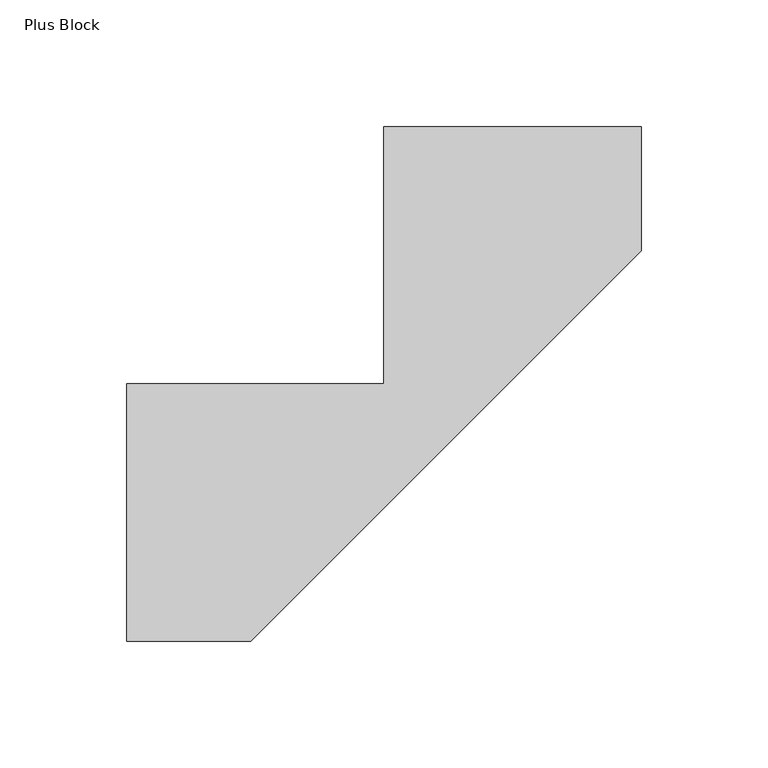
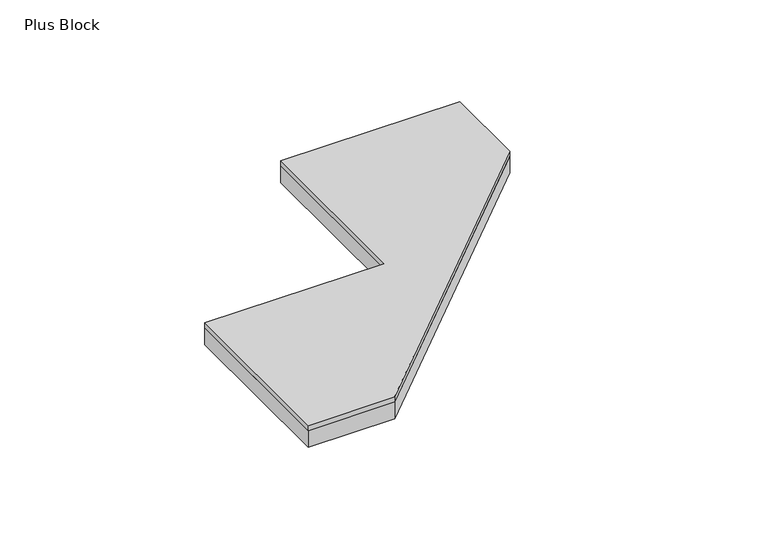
"""IFC4 building model written with IfcOpenShell, lengths in millimetres: proxy geometry, FilzFelt_Plus_Block : Plus Block."""

from ifc_helpers import new_model, si_unit, frame, origin, origin_with_axes, place, context, project, spatial, polyline, outline, extrude, source, transform, mapped, element, save


def plus_block_2c174317(model_context):
    return source(origin(), model_context, "Body", "SweptSolid", [
        extrude(outline(polyline([(-152.5, -50.8333333), (-152.5, 50.8333333), (-50.8333333, 50.8333333), (-50.8333333, 152.5), (50.8333333, 152.5), (50.8333333, 103.4469644), (-103.4469644, -50.8333333), (-152.5, -50.8333333)])), frame((0.0, 0.0, 10.0210937), z_axis=(0.0, 0.0, 1.0), x_axis=(1.0, 0.0, 0.0)), (0.0, 0.0, 1.0), 2.9765625),
        extrude(outline(polyline([(-152.5, -50.8333333), (-152.5, 50.8333333), (-50.8333333, 50.8333333), (-50.8333333, 152.5), (50.8333333, 152.5), (50.8333333, 103.4469644), (-103.4469644, -50.8333333), (-152.5, -50.8333333)])), origin_with_axes(), (0.0, 0.0, 1.0), 10.0210938),
    ])


if __name__ == "__main__":
    model = new_model("IFC4")
    model_context = context("Model", 3, world=origin())
    ifc_project = project(units=[si_unit("LENGTHUNIT", "METRE", prefix="MILLI")], contexts=[model_context])
    site = spatial("IfcSite", under=ifc_project)
    building = spatial("IfcBuilding", under=site)
    placement = place(None, origin())
    plus_block_shape = plus_block_2c174317(model_context)
    element("IfcBuildingElementProxy", 1, Name="FilzFelt_Plus_Block : Plus Block", ObjectType="FilzFelt_Plus_Block : Plus Block", at=placement, inside=building, context=model_context, shape_type="MappedRepresentation", body=[
        mapped(plus_block_shape, transform((0.0, 0.0, 0.0), x_axis=(1.0, 0.0, 0.0), y_axis=(0.0, 1.0, 0.0), z_axis=(0.0, 0.0, 1.0))),
    ])
    save(model, "model.ifc")
